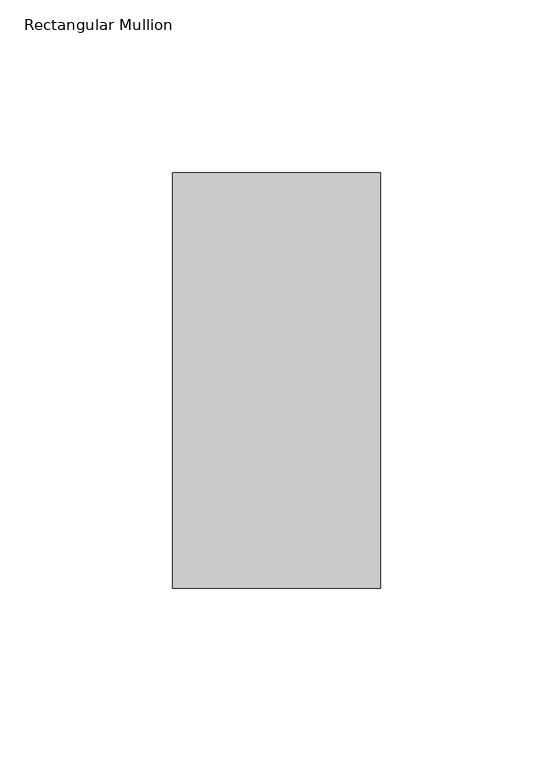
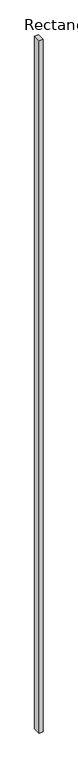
"""IFC4 building model written with IfcOpenShell, lengths in millimetres: member geometry, Rectangular Mullion : Terça."""

import ifcopenshell
import ifcopenshell.guid

model = None  # the IFC model being written
_history = None  # IfcOwnerHistory: only IFC2X3 demands one
_inside = {}  # id of a spatial element -> (the spatial element, [elements in it])
_under = {}  # id of a project, library or spatial element -> (it, [spatial elements below it])
_declared = {}  # id of a project -> (the project, [libraries it declares])
_typed = {}  # id of a type object -> (the type object, [elements of that type])
_made_of = {}  # id of a material, layer set ... -> (it, [elements and type objects made of it])


def new_model(schema):
    """Start an empty IFC model of exactly this schema.

    Asked for "IFC4X3", IfcOpenShell would pick the latest addendum, in which some entities
    have other attributes; the version numbers below select the first issue.
    IFC2X3 requires an IfcOwnerHistory on every rooted entity: one is made here for all.
    """
    global model, _history
    if schema == "IFC4X3":
        model = ifcopenshell.file(schema_version=(4, 3, 0, 0))
    else:
        model = ifcopenshell.file(schema=schema)
    _inside.clear()
    _under.clear()
    _declared.clear()
    _typed.clear()
    _made_of.clear()
    _history = None
    if model.schema == "IFC2X3":
        org = make("IfcOrganization", Name="unknown")
        user = make(
            "IfcPersonAndOrganization",
            ThePerson=make("IfcPerson", FamilyName="unknown"),
            TheOrganization=org,
        )
        app = make(
            "IfcApplication",
            ApplicationDeveloper=org,
            Version="unknown",
            ApplicationFullName="unknown",
            ApplicationIdentifier="unknown",
        )
        _history = make(
            "IfcOwnerHistory",
            OwningUser=user,
            OwningApplication=app,
            ChangeAction="ADDED",
            CreationDate=0,
        )
    return model


def make(cls, **values):
    """One entity of the class cls with the attributes given. An attribute that is None is left unset."""
    return model.create_entity(
        cls, **{name: value for name, value in values.items() if value is not None}
    )


def rooted(cls, **values):
    """An entity with a GlobalId (a new one), such as an element, a storey or a relation."""
    return make(cls, GlobalId=ifcopenshell.guid.new(), OwnerHistory=_history, **values)


def si_unit(unit_type, name, prefix=None):
    """IfcSIUnit, for example si_unit("LENGTHUNIT", "METRE", prefix="MILLI")."""
    return make("IfcSIUnit", UnitType=unit_type, Prefix=prefix, Name=name)


def assignment(units):
    """IfcUnitAssignment: the units of a project."""
    return None if units is None else make("IfcUnitAssignment", Units=units)


def point(xyz):
    """IfcCartesianPoint."""
    return None if xyz is None else make("IfcCartesianPoint", Coordinates=xyz)


def direction(xyz):
    """IfcDirection."""
    return None if xyz is None else make("IfcDirection", DirectionRatios=xyz)


def frame(location, z_axis=None, x_axis=None):
    """IfcAxis2Placement3D, a coordinate frame: its origin and axes. An axis left out is left unset."""
    return make(
        "IfcAxis2Placement3D",
        Location=point(location),
        Axis=direction(z_axis),
        RefDirection=direction(x_axis),
    )


def origin():
    """The frame at (0, 0, 0) with its axes left unset."""
    return frame((0.0, 0.0, 0.0))


def place(relative_to, where):
    """IfcLocalPlacement: puts the frame where relative to a parent placement (None: the world)."""
    return make(
        "IfcLocalPlacement", PlacementRelTo=relative_to, RelativePlacement=where
    )


def context(
    kind, dimensions, precision=None, world=None, true_north=None, identifier=None
):
    """IfcGeometricRepresentationContext, for example the 3D "Model" context."""
    return make(
        "IfcGeometricRepresentationContext",
        ContextIdentifier=identifier,
        ContextType=kind,
        CoordinateSpaceDimension=dimensions,
        Precision=precision,
        WorldCoordinateSystem=world,
        TrueNorth=true_north,
    )


def project(units=None, contexts=None):
    """IfcProject with its units and contexts."""
    return rooted(
        "IfcProject",
        Name="project",
        RepresentationContexts=contexts,
        UnitsInContext=assignment(units),
    )


def spatial(cls, under=None, at=None, **own):
    """A site, building, storey or space (cls), placed at a placement, below another one or the project."""
    s = rooted(cls, ObjectPlacement=at, **own)
    if under is not None:
        _under.setdefault(under.id(), (under, []))[1].append(s)
    return s


def polyline(points):
    """IfcPolyline through the points."""
    return make("IfcPolyline", Points=[point(p) for p in points])


def outline(outer, holes=None, kind="AREA"):
    """IfcArbitraryClosedProfileDef: a profile drawn as a closed curve; with holes, ...WithVoids."""
    if holes is None:
        return make("IfcArbitraryClosedProfileDef", ProfileType=kind, OuterCurve=outer)
    return make(
        "IfcArbitraryProfileDefWithVoids",
        ProfileType=kind,
        OuterCurve=outer,
        InnerCurves=holes,
    )


def extrude(swept, where, along, depth):
    """IfcExtrudedAreaSolid: the profile swept, set in the frame where, extruded along a direction by depth."""
    return make(
        "IfcExtrudedAreaSolid",
        SweptArea=swept,
        Position=where,
        ExtrudedDirection=direction(along),
        Depth=depth,
    )


def shape(context_of_items, identifier, shape_type, items):
    """IfcShapeRepresentation: the items that make up one representation, for example the "Body"."""
    return make(
        "IfcShapeRepresentation",
        ContextOfItems=context_of_items,
        RepresentationIdentifier=identifier,
        RepresentationType=shape_type,
        Items=items,
    )


def source(mapping_origin, context_of_items, identifier, shape_type, items):
    """IfcRepresentationMap: a shape defined once, which mapped items show again and again."""
    return make(
        "IfcRepresentationMap",
        MappingOrigin=mapping_origin,
        MappedRepresentation=shape(context_of_items, identifier, shape_type, items),
    )


def transform(
    local_origin,
    x_axis=None,
    y_axis=None,
    z_axis=None,
    scale=None,
    scale2=None,
    scale3=None,
    uniform=True,
):
    """IfcCartesianTransformationOperator3D, or its non-uniform kind. x_axis, y_axis, z_axis: its Axis1, 2, 3."""
    if uniform:
        return make(
            "IfcCartesianTransformationOperator3D",
            Axis1=direction(x_axis),
            Axis2=direction(y_axis),
            LocalOrigin=point(local_origin),
            Scale=scale,
            Axis3=direction(z_axis),
        )
    return make(
        "IfcCartesianTransformationOperator3DnonUniform",
        Axis1=direction(x_axis),
        Axis2=direction(y_axis),
        LocalOrigin=point(local_origin),
        Scale=scale,
        Axis3=direction(z_axis),
        Scale2=scale2,
        Scale3=scale3,
    )


def mapped(mapping_source, mapping_target):
    """IfcMappedItem: shows the shape of a source again, moved by a transform."""
    return make(
        "IfcMappedItem", MappingSource=mapping_source, MappingTarget=mapping_target
    )


def made_of(thing, what):
    """Note that an element or type object is made of a material, layer set ...; save() writes the relation."""
    if what is not None:
        _made_of.setdefault(what.id(), (what, []))[1].append(thing)
    return thing


def element(
    cls,
    number,
    at=None,
    inside=None,
    cuts=None,
    type_object=None,
    material=None,
    context=None,
    identifier="Body",
    shape_type=None,
    held_by="IfcProductDefinitionShape",
    body=None,
    shapes=None,
    **own,
):
    """One element of the class cls, such as IfcWall. Its Tag is "e" and its number.

    at: its placement. inside: the storey or other place that contains it. cuts: it is an
    opening in that element (IfcRelVoidsElement). A single representation is given by context,
    identifier, shape_type and body (its items); several are given by shapes. held_by: the class
    of the entity that holds the representations. save() writes the other relations.
    """
    e = rooted(cls, Tag="e%d" % number, ObjectPlacement=at, **own)
    if body is not None:
        shapes = [shape(context, identifier, shape_type, body)]
    if shapes is not None:
        e.Representation = make(held_by, Representations=shapes)
    if inside is not None:
        _inside.setdefault(inside.id(), (inside, []))[1].append(e)
    if cuts is not None:
        rooted(
            "IfcRelVoidsElement", RelatingBuildingElement=cuts, RelatedOpeningElement=e
        )
    if type_object is not None:
        _typed.setdefault(type_object.id(), (type_object, []))[1].append(e)
    return made_of(e, material)


def aggregate(whole, parts):
    """IfcRelAggregates: a whole, such as a stair, and the parts it consists of."""
    return rooted("IfcRelAggregates", RelatingObject=whole, RelatedObjects=parts)


def save(model, path):
    """Write the relations noted so far, then the file.

    IfcRelAggregates (storeys below a building ...), IfcRelContainedInSpatialStructure (elements
    in a storey), IfcRelDefinesByType, IfcRelAssociatesMaterial and IfcRelDeclares: one each for
    every whole, place, type object, material and project.
    """
    for whole, parts in _under.values():
        aggregate(whole, parts)
    for where, things in _inside.values():
        rooted(
            "IfcRelContainedInSpatialStructure",
            RelatedElements=things,
            RelatingStructure=where,
        )
    for kind, things in _typed.values():
        rooted("IfcRelDefinesByType", RelatedObjects=things, RelatingType=kind)
    for what, things in _made_of.values():
        rooted("IfcRelAssociatesMaterial", RelatedObjects=things, RelatingMaterial=what)
    for by, libraries in _declared.values():
        rooted("IfcRelDeclares", RelatingContext=by, RelatedDefinitions=libraries)
    model.write(path)


def rectangular_mullion_b5bf8cd6(model_context):
    return source(origin(), model_context, "Body", "SweptSolid", [
        extrude(outline(polyline([(-60.0, -120.0), (-60.0, 0.0), (0.0, 0.0), (0.0, -120.0), (-60.0, -120.0)])), frame((0.0, 0.0, -11499.6172534), z_axis=(0.0, 0.0, 1.0), x_axis=(1.0, 0.0, 0.0)), (0.0, 0.0, 1.0), 11499.6172534),
    ])


if __name__ == "__main__":
    model = new_model("IFC4")
    model_context = context("Model", 3, world=origin())
    ifc_project = project(units=[si_unit("LENGTHUNIT", "METRE", prefix="MILLI")], contexts=[model_context])
    site = spatial("IfcSite", under=ifc_project)
    building = spatial("IfcBuilding", under=site)
    placement = place(None, origin())
    rectangular_mullion_shape = rectangular_mullion_b5bf8cd6(model_context)
    element("IfcMember", 1, ObjectType="Rectangular Mullion : Terça", at=placement, inside=building, context=model_context, shape_type="MappedRepresentation", body=[
        mapped(rectangular_mullion_shape, transform((0.0, 0.0, 0.0), x_axis=(1.0, 0.0, 0.0), y_axis=(0.0, 1.0, 0.0), z_axis=(0.0, 0.0, 1.0))),
    ])
    save(model, "model.ifc")
